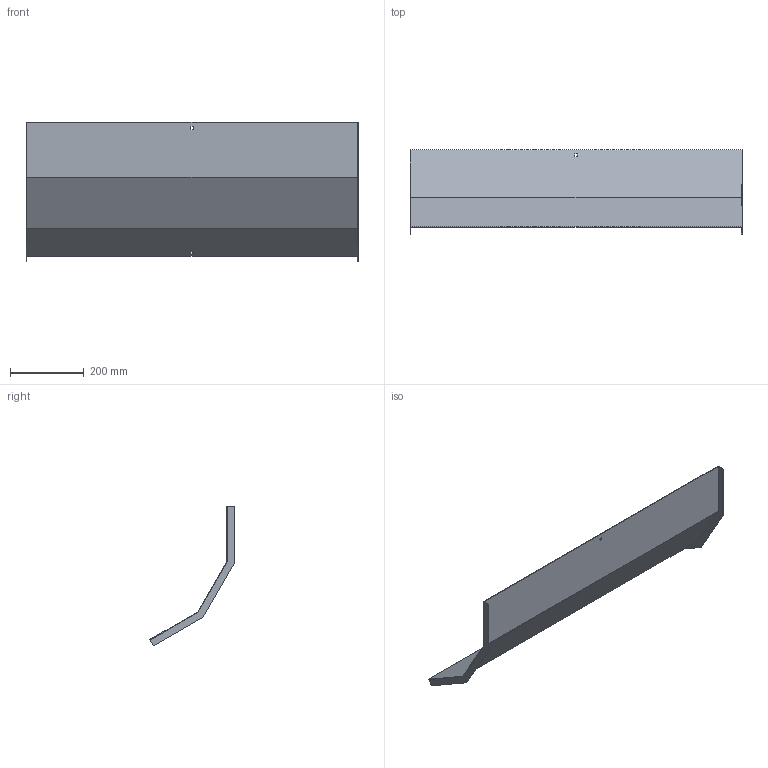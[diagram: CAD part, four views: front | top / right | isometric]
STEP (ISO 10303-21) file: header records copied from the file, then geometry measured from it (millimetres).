
FILE_DESCRIPTION (( 'STEP AP214' ), '1' );
FILE_NAME ('A2X40N3R900X.step', '2025-04-02T08:35:30', ( '' ), ( '' ), 'SwSTEP 2.0', 'SolidWorks 2023', '' );
FILE_SCHEMA (( 'AUTOMOTIVE_DESIGN' ));
Length unit declared in the file: millimetre
Products named in the file (1): A2X40N3R900X
Bounding box: 903 x 229.74 x 380.61 mm (x, y, z)
Volume: 649588.8 mm3; surface area: 870472.1 mm2
Topology: 1 solids, 1 shells, 26 faces, 72 edges, 48 vertices
Faces by surface type: plane 26
Entity records: 847 total; most frequent: CARTESIAN_POINT 147, ORIENTED_EDGE 144, DIRECTION 126, EDGE_CURVE 72, VECTOR 72, LINE 72, VERTEX_POINT 48, EDGE_LOOP 30
